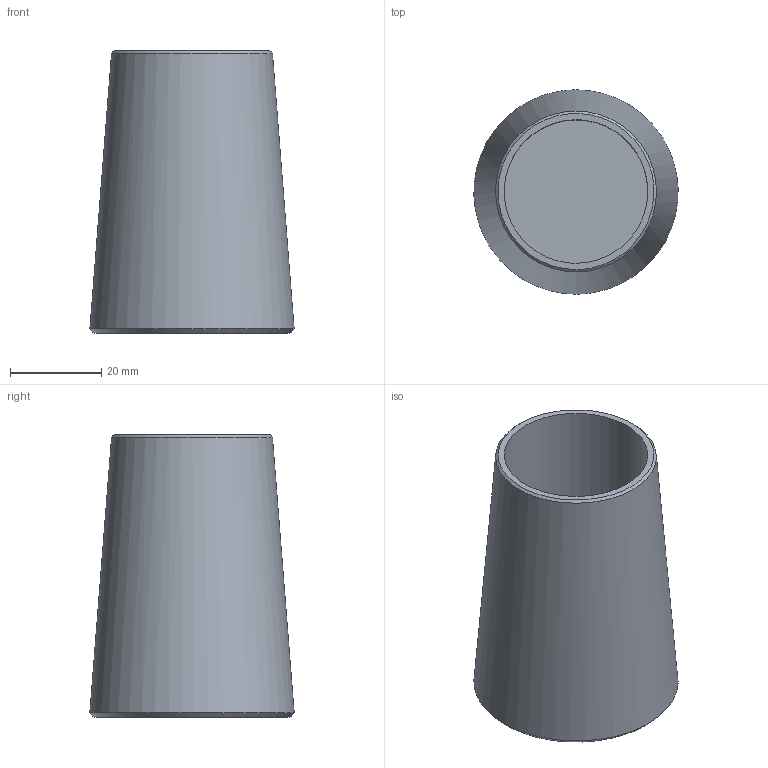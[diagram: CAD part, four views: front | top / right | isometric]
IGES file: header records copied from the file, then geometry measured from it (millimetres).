
Global section: file name: 520-030-KMU; native system: Autodesk Inventor 2016; preprocessor: unknown; author: BAYR; date: 20200618.122654; units: millimetre
Bounding box: 44.82 x 44.84 x 62 mm (x, y, z)
Volume: 42072.4 mm3; surface area: 14938.9 mm2
Topology: 1 solids, 1 shells, 7 faces, 14 edges, 10 vertices
Faces by surface type: bspline 7
